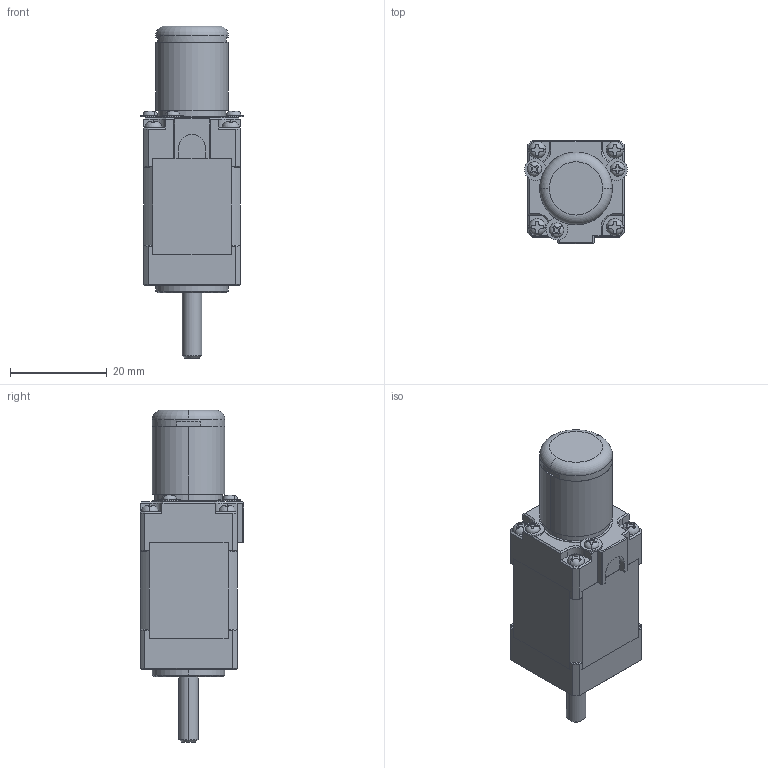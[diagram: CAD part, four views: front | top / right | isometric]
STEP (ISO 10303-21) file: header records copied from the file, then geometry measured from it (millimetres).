
FILE_DESCRIPTION (( 'STEP AP203' ), '1' );
FILE_NAME ('TS4735.STEP', '2010-07-21T18:20:57', ( 'render' ), ( '' ), 'SwSTEP 2.0', 'SolidWorks 2009', '' );
FILE_SCHEMA (( 'CONFIG_CONTROL_DESIGN' ));
Length unit declared in the file: millimetre
Products named in the file (10): Assembly-1; ﾚｿﾞﾙﾊﾞｷｬｯﾌﾟ; 睊睟忤; 衛偯; 後蓋; 座金.3; TS4735N3200; PK2.3.2; PK1.6; TS4735
Assembly tree (16 placements, depth 3):
  TS4735
    Assembly-1
      PK2.3.2  x4
      衛偯
      睊睟忤
      TS4735N3200
      ﾚｿﾞﾙﾊﾞｷｬｯﾌﾟ
      PK1.6  x3
      座金.3  x3
      後蓋
Bounding box: 21.27 x 21.4 x 68.6 mm (x, y, z)
Volume: 17415.8 mm3; surface area: 7651.9 mm2
Topology: 15 solids, 15 shells, 360 faces, 900 edges, 576 vertices
Faces by surface type: plane 221, cylinder 91, cone 32, torus 16
Entity records: 8500 total; most frequent: CARTESIAN_POINT 1478, DIRECTION 1224, ORIENTED_EDGE 1188, EDGE_CURVE 594, AXIS2_PLACEMENT_3D 446, VERTEX_POINT 372, LINE 332, VECTOR 332
